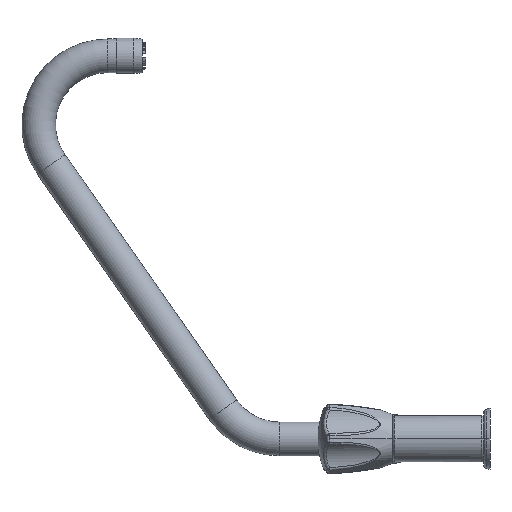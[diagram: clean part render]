
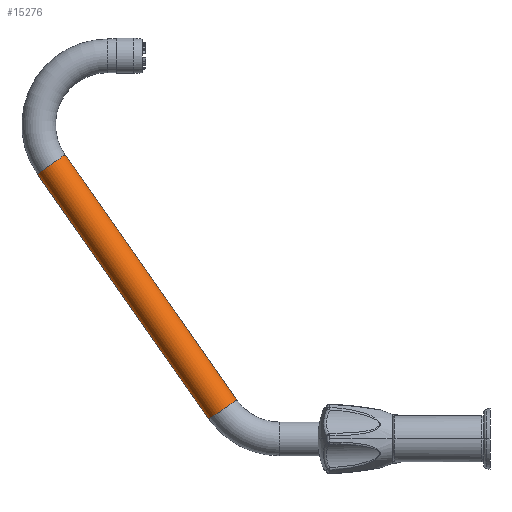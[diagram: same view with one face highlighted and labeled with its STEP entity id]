
A CAD part, left-side view. The second image highlights one B-rep face of the part: STEP entity #15276.
In plain terms, the highlighted cylindrical face has radius 11 mm (diameter 22 mm), a partial arc.
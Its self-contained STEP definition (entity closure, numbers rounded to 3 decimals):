
#5050=CARTESIAN_POINT('',(0.,170.329,
19.189));
#5051=DIRECTION('',(0.,0.574,0.819));
#5052=DIRECTION('',(0.,0.819,-0.574));
#5053=AXIS2_PLACEMENT_3D('',#5050,#5051,#5052);
#5055=DIRECTION('',(0.,0.574,0.819));
#5056=VECTOR('',#5055,195.324);
#5057=CARTESIAN_POINT('',(0.,179.339,
12.88));
#5058=LINE('',#5057,#5056);
#5064=DIRECTION('',(0.,0.574,0.819));
#5065=VECTOR('',#5064,195.324);
#5066=CARTESIAN_POINT('',(0.,161.318,
25.498));
#5067=LINE('',#5066,#5065);
#5078=CARTESIAN_POINT('',(0.,282.362,
179.189));
#5079=DIRECTION('',(0.,0.574,0.819));
#5080=DIRECTION('',(0.,0.819,-0.574));
#5081=AXIS2_PLACEMENT_3D('',#5078,#5079,#5080);
#6351=CARTESIAN_POINT('',(0.,179.339,
12.88));
#6352=CARTESIAN_POINT('',(0.,161.318,
25.498));
#6353=VERTEX_POINT('',#6351);
#6354=VERTEX_POINT('',#6352);
#6355=CARTESIAN_POINT('',(0.,291.373,
172.88));
#6356=CARTESIAN_POINT('',(0.,273.351,
185.498));
#6357=VERTEX_POINT('',#6355);
#6358=VERTEX_POINT('',#6356);
#15262=CARTESIAN_POINT('',(0.,170.329,
19.189));
#15263=DIRECTION('',(0.,0.574,0.819));
#15264=DIRECTION('',(0.,0.819,-0.574));
#15265=AXIS2_PLACEMENT_3D('',#15262,#15263,#15264);
#15266=CYLINDRICAL_SURFACE('',#15265,11.);
#15267=ORIENTED_EDGE('',*,*,#15249,.F.);
#15269=ORIENTED_EDGE('',*,*,#15268,.T.);
#15271=ORIENTED_EDGE('',*,*,#15270,.T.);
#15273=ORIENTED_EDGE('',*,*,#15272,.F.);
#15274=EDGE_LOOP('',(#15267,#15269,#15271,#15273));
#15275=FACE_OUTER_BOUND('',#15274,.F.);
#5054=CIRCLE('',#5053,11.);
#5082=CIRCLE('',#5081,11.);
#15249=EDGE_CURVE('',#6353,#6354,#5054,.T.);
#15268=EDGE_CURVE('',#6353,#6357,#5058,.T.);
#15270=EDGE_CURVE('',#6357,#6358,#5082,.T.);
#15272=EDGE_CURVE('',#6354,#6358,#5067,.T.);
#15276=ADVANCED_FACE('',(#15275),#15266,.T.);
